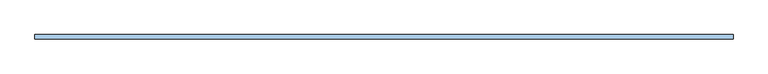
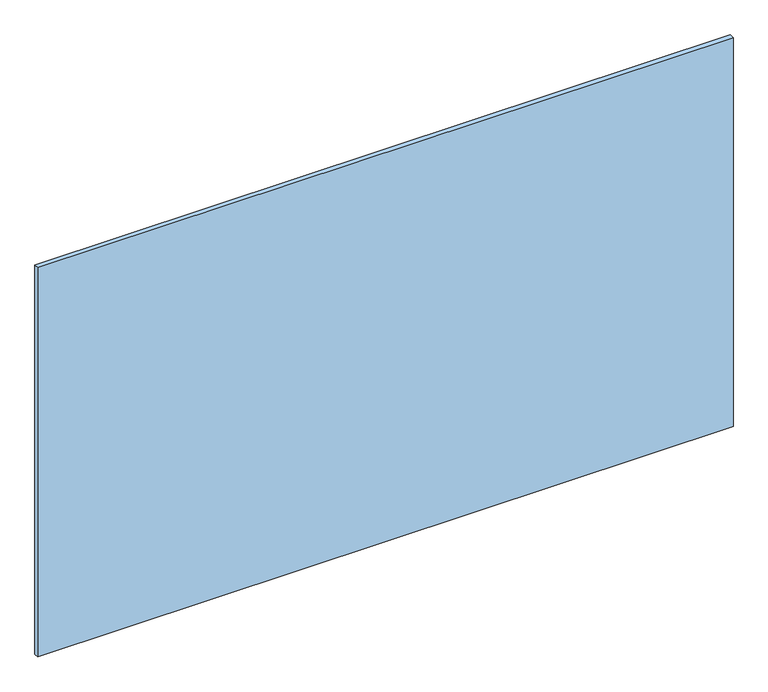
"""IFC4 building model written with IfcOpenShell, lengths in millimetres: window geometry, espejo biselado sin marco : ESP-1 espejo biselado 130 x 100."""

from ifc_helpers import new_model, si_unit, origin, origin_with_axes, place, context, project, spatial, polyline, outline, extrude, source, transform, mapped, element, save


def window_9216b0c9(model_context):
    return source(origin(), model_context, "Body", "SweptSolid", [
        extrude(outline(polyline([(-845.0, -79.0), (845.0, -79.0), (845.0, -90.0), (-845.0, -90.0), (-845.0, -79.0)])), origin_with_axes(), (0.0, 0.0, 1.0), 1000.0),
    ])


if __name__ == "__main__":
    model = new_model("IFC4")
    model_context = context("Model", 3, world=origin())
    ifc_project = project(units=[si_unit("LENGTHUNIT", "METRE", prefix="MILLI")], contexts=[model_context])
    site = spatial("IfcSite", under=ifc_project)
    building = spatial("IfcBuilding", under=site)
    placement = place(None, origin())
    window_shape = window_9216b0c9(model_context)
    element("IfcWindow", 1, ObjectType="espejo biselado sin marco : ESP-1 espejo biselado 130 x 100", at=placement, inside=building, context=model_context, shape_type="MappedRepresentation", body=[
        mapped(window_shape, transform((0.0, 0.0, 0.0), x_axis=(1.0, 0.0, 0.0), y_axis=(0.0, 1.0, 0.0), z_axis=(0.0, 0.0, 1.0))),
    ])
    save(model, "model.ifc")
